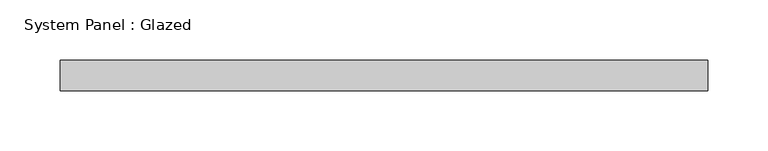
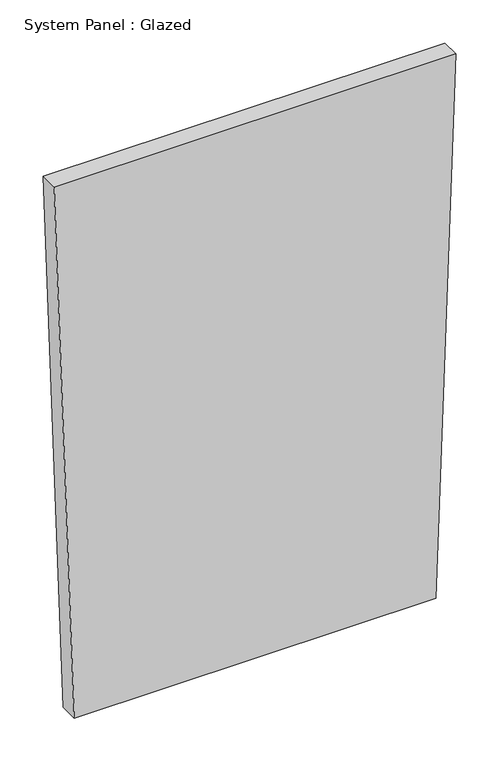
"""IFC4 building model written with IfcOpenShell, lengths in millimetres: plate geometry, System Panel : Glazed."""

from ifc_helpers import new_model, si_unit, frame, origin, place, context, project, spatial, polyline, outline, extrude, source, transform, mapped, element, save


def system_panel_glazed_7656a875(model_context):
    return source(origin(), model_context, "Body", "SweptSolid", [
        extrude(outline(polyline([(0.0, -242.4009909), (0.0, 242.4009909), (761.5238602, 269.3344344), (761.5238602, -269.3344344), (0.0, -242.4009909)])), frame((0.0, -44.45, 0.0), z_axis=(0.0, 1.0, 0.0), x_axis=(0.0, 0.0, 1.0)), (0.0, 0.0, 1.0), 25.4),
    ])


if __name__ == "__main__":
    model = new_model("IFC4")
    model_context = context("Model", 3, world=origin())
    ifc_project = project(units=[si_unit("LENGTHUNIT", "METRE", prefix="MILLI")], contexts=[model_context])
    site = spatial("IfcSite", under=ifc_project)
    building = spatial("IfcBuilding", under=site)
    placement = place(None, origin())
    system_panel_glazed_shape = system_panel_glazed_7656a875(model_context)
    element("IfcPlate", 1, ObjectType="System Panel : Glazed", at=placement, inside=building, context=model_context, shape_type="MappedRepresentation", body=[
        mapped(system_panel_glazed_shape, transform((0.0, 0.0, 0.0), x_axis=(1.0, 0.0, 0.0), y_axis=(0.0, 1.0, 0.0), z_axis=(0.0, 0.0, 1.0))),
    ])
    save(model, "model.ifc")
